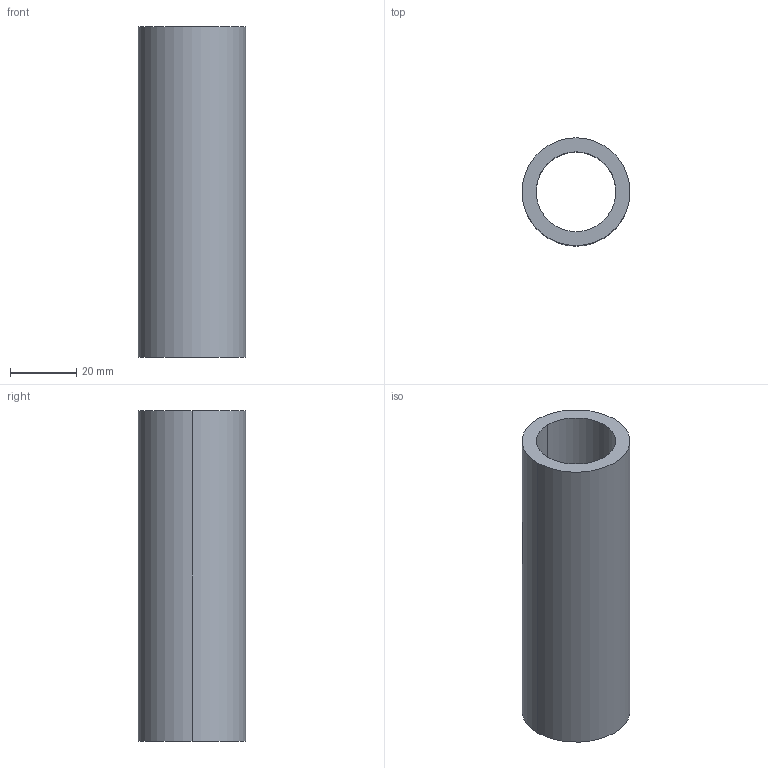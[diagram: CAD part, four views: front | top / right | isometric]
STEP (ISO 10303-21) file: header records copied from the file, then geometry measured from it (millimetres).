
FILE_DESCRIPTION (( 'STEP AP203' ), '1' );
FILE_NAME ('19-0408-35_outokumpu.step', '2015-08-11T09:39:55', ( '' ), ( '' ), 'SwSTEP 2.0', 'SolidWorks 2008', '' );
FILE_SCHEMA (( 'CONFIG_CONTROL_DESIGN' ));
Length unit declared in the file: millimetre
Products named in the file (1): 19-0408-35_outokumpu
Bounding box: 32.6 x 32.6 x 100 mm (x, y, z)
Volume: 36252.6 mm3; surface area: 18625.3 mm2
Topology: 1 solids, 1 shells, 12 faces, 26 edges, 16 vertices
Faces by surface type: cylinder 6, cone 4, plane 2
Entity records: 415 total; most frequent: DIRECTION 68, CARTESIAN_POINT 55, ORIENTED_EDGE 52, AXIS2_PLACEMENT_3D 29, EDGE_CURVE 26, CIRCLE 16, VERTEX_POINT 16, EDGE_LOOP 14
